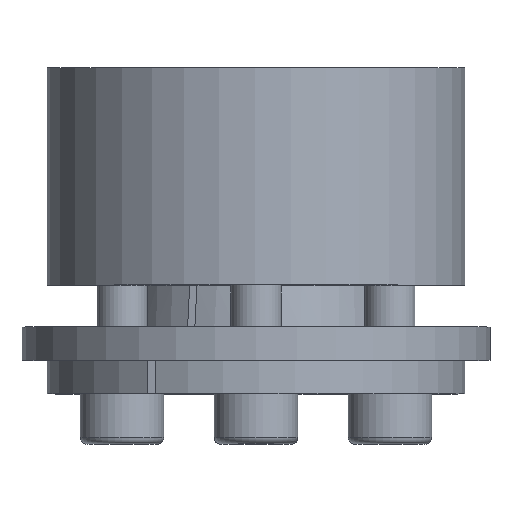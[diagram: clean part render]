
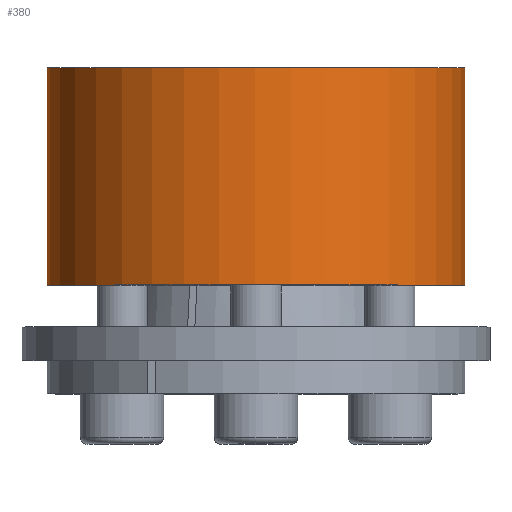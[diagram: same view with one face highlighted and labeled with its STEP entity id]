
A CAD part, top view. The second image highlights one B-rep face of the part: STEP entity #380.
In plain terms, the highlighted cylindrical face has radius 25 mm (diameter 50 mm), a partial arc.
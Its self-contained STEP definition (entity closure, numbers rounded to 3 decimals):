
#380 = ADVANCED_FACE( '', ( #618 ), #619, .T. );
#618 = FACE_OUTER_BOUND( '', #784, .T. );
#619 = CYLINDRICAL_SURFACE( '', #785, 25. );
#784 = EDGE_LOOP( '', ( #1092, #1093, #1094, #1095 ) );
#785 = AXIS2_PLACEMENT_3D( '', #1096, #1097, #1098 );
#1092 = ORIENTED_EDGE( '', *, *, #1442, .F. );
#1093 = ORIENTED_EDGE( '', *, *, #1423, .T. );
#1094 = ORIENTED_EDGE( '', *, *, #1444, .T. );
#1095 = ORIENTED_EDGE( '', *, *, #1445, .F. );
#1096 = CARTESIAN_POINT( '', ( 0., -60., 0. ) );
#1097 = DIRECTION( '', ( 0., 1., 0. ) );
#1098 = DIRECTION( '', ( 0., 0., -1. ) );
#1423 = EDGE_CURVE( '', #1617, #1626, #1628, .F. );
#1442 = EDGE_CURVE( '', #1617, #1657, #1658, .T. );
#1444 = EDGE_CURVE( '', #1626, #1660, #1661, .T. );
#1445 = EDGE_CURVE( '', #1657, #1660, #1662, .F. );
#1617 = VERTEX_POINT( '', #1817 );
#1626 = VERTEX_POINT( '', #1832 );
#1628 = LINE( '', #1835, #1836 );
#1657 = VERTEX_POINT( '', #1876 );
#1658 = CIRCLE( '', #1877, 25. );
#1660 = VERTEX_POINT( '', #1880 );
#1661 = CIRCLE( '', #1881, 25. );
#1662 = LINE( '', #1882, #1883 );
#1817 = CARTESIAN_POINT( '', ( 12.931, 13., -21.396 ) );
#1832 = CARTESIAN_POINT( '', ( 12.931, 39., -21.396 ) );
#1835 = CARTESIAN_POINT( '', ( 12.931, -60., -21.396 ) );
#1836 = VECTOR( '', #2016, 1000. );
#1876 = CARTESIAN_POINT( '', ( 12.064, 13., -21.896 ) );
#1877 = AXIS2_PLACEMENT_3D( '', #2052, #2053, #2054 );
#1880 = CARTESIAN_POINT( '', ( 12.064, 39., -21.896 ) );
#1881 = AXIS2_PLACEMENT_3D( '', #2056, #2057, #2058 );
#1882 = CARTESIAN_POINT( '', ( 12.064, -60., -21.896 ) );
#1883 = VECTOR( '', #2059, 1000. );
#2016 = DIRECTION( '', ( 0., -1., 0. ) );
#2052 = CARTESIAN_POINT( '', ( 0., 13., 0. ) );
#2053 = DIRECTION( '', ( 0., -1., 0. ) );
#2054 = DIRECTION( '', ( 0., 0., -1. ) );
#2056 = CARTESIAN_POINT( '', ( 0., 39., 0. ) );
#2057 = DIRECTION( '', ( 0., -1., 0. ) );
#2058 = DIRECTION( '', ( 0., 0., -1. ) );
#2059 = DIRECTION( '', ( 0., -1., 0. ) );
